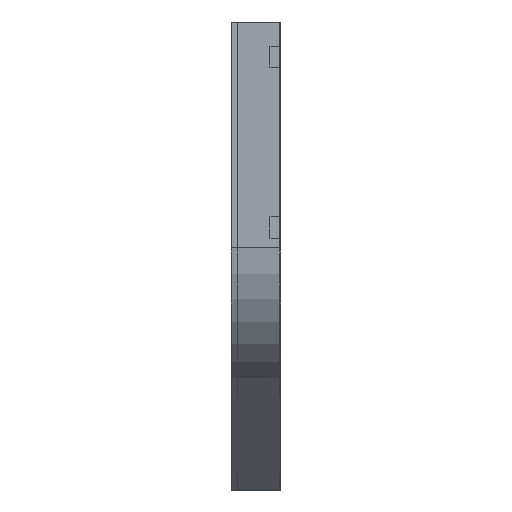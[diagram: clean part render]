
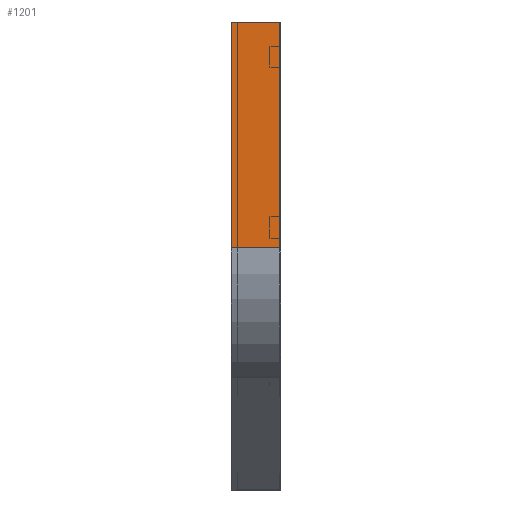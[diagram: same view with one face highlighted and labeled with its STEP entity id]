
A CAD part, left-side view. The second image highlights one B-rep face of the part: STEP entity #1201.
In plain terms, the highlighted planar face has unit normal (-1, 0, 0).
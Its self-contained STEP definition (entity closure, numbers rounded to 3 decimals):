
#2 = VERTEX_POINT ( 'NONE', #1791 ) ;
#46 = VERTEX_POINT ( 'NONE', #1117 ) ;
#177 = DIRECTION ( 'NONE',  ( 1., 0., 0. ) ) ;
#258 = DIRECTION ( 'NONE',  ( 0., 0., -1. ) ) ;
#347 = CARTESIAN_POINT ( 'NONE',  ( 0., 0., -454.145 ) ) ;
#373 = FACE_OUTER_BOUND ( 'NONE', #1122, .T. ) ;
#421 = CARTESIAN_POINT ( 'NONE',  ( 0., 100., -454.145 ) ) ;
#428 = ORIENTED_EDGE ( 'NONE', *, *, #513, .F. ) ;
#434 = VECTOR ( 'NONE', #258, 1000. ) ;
#513 = EDGE_CURVE ( 'NONE', #763, #2, #1350, .T. ) ;
#559 = VECTOR ( 'NONE', #1342, 1000. ) ;
#617 = CARTESIAN_POINT ( 'NONE',  ( 0., 0., 0. ) ) ;
#693 = DIRECTION ( 'NONE',  ( 0., -1., 0. ) ) ;
#716 = ORIENTED_EDGE ( 'NONE', *, *, #1551, .F. ) ;
#763 = VERTEX_POINT ( 'NONE', #1706 ) ;
#791 = DIRECTION ( 'NONE',  ( 0., -1., 0. ) ) ;
#980 = CARTESIAN_POINT ( 'NONE',  ( 0., 0., 0. ) ) ;
#1004 = DIRECTION ( 'NONE',  ( 0., 0., -1. ) ) ;
#1021 = EDGE_CURVE ( 'NONE', #1546, #2, #1340, .T. ) ;
#1092 = VECTOR ( 'NONE', #693, 1000. ) ;
#1102 = LINE ( 'NONE', #980, #1092 ) ;
#1117 = CARTESIAN_POINT ( 'NONE',  ( 0., 100., 0. ) ) ;
#1122 = EDGE_LOOP ( 'NONE', ( #428, #716, #1680, #1415 ) ) ;
#1201 = ADVANCED_FACE ( 'NONE', ( #373 ), #1326, .F. ) ;
#1326 = PLANE ( 'NONE',  #1709 ) ;
#1340 = LINE ( 'NONE', #347, #1380 ) ;
#1342 = DIRECTION ( 'NONE',  ( 0., 0., -1. ) ) ;
#1350 = LINE ( 'NONE', #617, #559 ) ;
#1380 = VECTOR ( 'NONE', #791, 1000. ) ;
#1415 = ORIENTED_EDGE ( 'NONE', *, *, #1021, .T. ) ;
#1541 = LINE ( 'NONE', #1655, #434 ) ;
#1546 = VERTEX_POINT ( 'NONE', #421 ) ;
#1551 = EDGE_CURVE ( 'NONE', #46, #763, #1102, .T. ) ;
#1655 = CARTESIAN_POINT ( 'NONE',  ( 0., 100., 0. ) ) ;
#1680 = ORIENTED_EDGE ( 'NONE', *, *, #1853, .T. ) ;
#1706 = CARTESIAN_POINT ( 'NONE',  ( 0., 0., 0. ) ) ;
#1709 = AXIS2_PLACEMENT_3D ( 'NONE', #1854, #177, #1004 ) ;
#1791 = CARTESIAN_POINT ( 'NONE',  ( 0., 0., -454.145 ) ) ;
#1853 = EDGE_CURVE ( 'NONE', #46, #1546, #1541, .T. ) ;
#1854 = CARTESIAN_POINT ( 'NONE',  ( 0., 0., 0. ) ) ;
